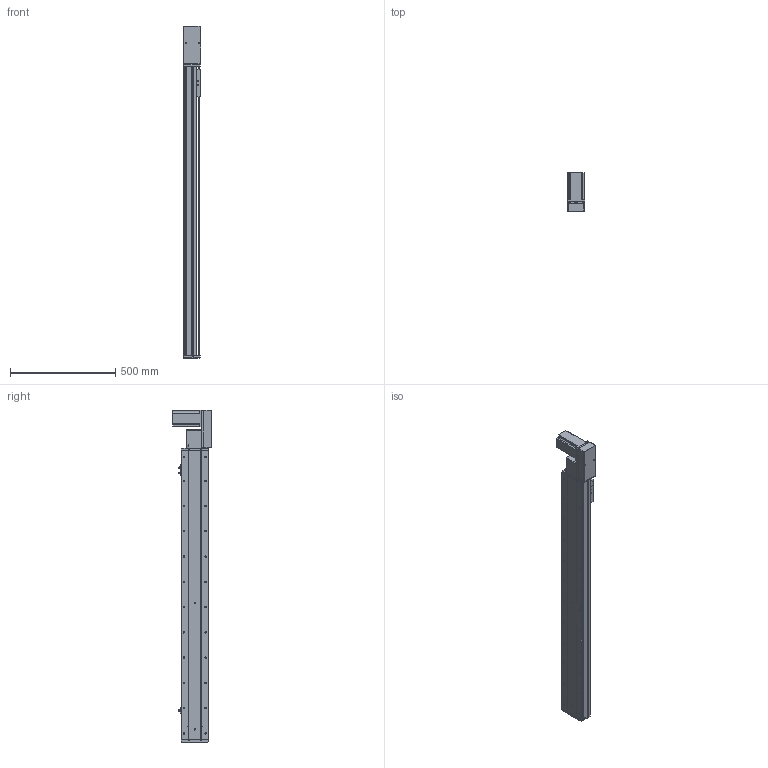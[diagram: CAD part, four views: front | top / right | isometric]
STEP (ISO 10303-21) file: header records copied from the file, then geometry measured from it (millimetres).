
FILE_DESCRIPTION (( 'STEP AP214' ), '1' );
FILE_NAME ('KSD130B-S1150-MLB-CM.STEP', '2019-11-14T02:51:12', ( '微软用户' ), ( '微软中国' ), 'SwSTEP 2.0', 'SolidWorks 2014', '' );
FILE_SCHEMA (( 'AUTOMOTIVE_DESIGN' ));
Length unit declared in the file: millimetre
Products named in the file (12): 130宽盖板半封闭同步带-1150行程; 130宽马达安装板同步带左-改; 130宽马达安装板同步带半封闭; 130宽同步带安装座半封闭; 130宽端盖同步带半封闭; 130宽底板半封闭同步带-1150行程; KSD130B-S1150-MLB-CM; 台达ECMA－C20807AS伺服电机; 130宽模组保护罩上下左右折-同步带; 130宽模组马达安装板连板左右折同步带; 覜茼え100遵圉猾敕; U倰嫖萇EEㄜSX672
Assembly tree (13 placements, depth 2):
  KSD130B-S1150-MLB-CM
    130宽底板半封闭同步带-1150行程
    130宽端盖同步带半封闭
    130宽同步带安装座半封闭
    130宽马达安装板同步带半封闭
    130宽马达安装板同步带左-改
    130宽盖板半封闭同步带-1150行程
    U倰嫖萇EEㄜSX672  x3
    覜茼え100遵圉猾敕
    130宽模组马达安装板连板左右折同步带
    130宽模组保护罩上下左右折-同步带
    台达ECMA－C20807AS伺服电机
Bounding box: 82.5 x 184.8 x 1577 mm (x, y, z)
Volume: 5392854.3 mm3; surface area: 1486102.2 mm2
Topology: 14 solids, 14 shells, 1577 faces, 4521 edges, 2881 vertices
Faces by surface type: cylinder 760, plane 630, cone 187
Entity records: 52299 total; most frequent: CARTESIAN_POINT 9798, DIRECTION 7939, ORIENTED_EDGE 7654, EDGE_CURVE 3827, AXIS2_PLACEMENT_3D 2902, VERTEX_POINT 2505, LINE 2135, VECTOR 2135
